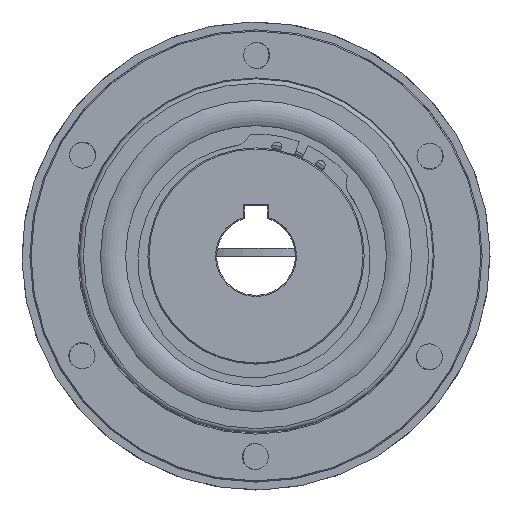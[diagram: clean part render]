
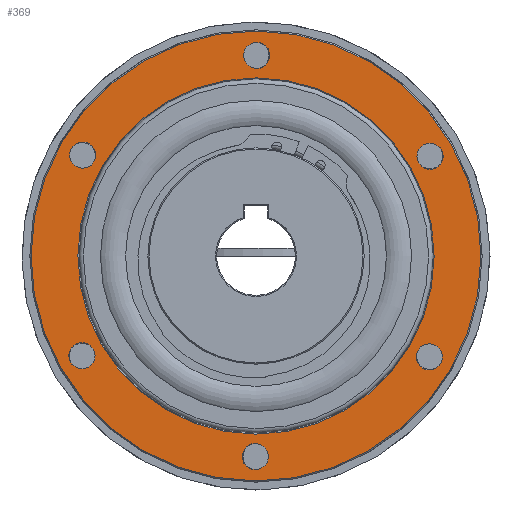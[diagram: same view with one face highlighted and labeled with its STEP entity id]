
A CAD part, left-side view. The second image highlights one B-rep face of the part: STEP entity #369.
In plain terms, the highlighted planar face has unit normal (-1, 0, 0).
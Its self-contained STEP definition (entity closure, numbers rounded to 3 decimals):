
#369 = ADVANCED_FACE( '', ( #640, #641, #642, #643, #644, #645, #646, #647 ), #648, .F. );
#640 = FACE_OUTER_BOUND( '', #940, .T. );
#641 = FACE_BOUND( '', #941, .T. );
#642 = FACE_BOUND( '', #942, .T. );
#643 = FACE_BOUND( '', #943, .T. );
#644 = FACE_BOUND( '', #944, .T. );
#645 = FACE_BOUND( '', #945, .T. );
#646 = FACE_BOUND( '', #946, .T. );
#647 = FACE_BOUND( '', #947, .T. );
#648 = PLANE( '', #948 );
#940 = EDGE_LOOP( '', ( #1430 ) );
#941 = EDGE_LOOP( '', ( #1431 ) );
#942 = EDGE_LOOP( '', ( #1432 ) );
#943 = EDGE_LOOP( '', ( #1433 ) );
#944 = EDGE_LOOP( '', ( #1434 ) );
#945 = EDGE_LOOP( '', ( #1435 ) );
#946 = EDGE_LOOP( '', ( #1436 ) );
#947 = EDGE_LOOP( '', ( #1437 ) );
#948 = AXIS2_PLACEMENT_3D( '', #1438, #1439, #1440 );
#1430 = ORIENTED_EDGE( '', *, *, #1735, .T. );
#1431 = ORIENTED_EDGE( '', *, *, #1738, .T. );
#1432 = ORIENTED_EDGE( '', *, *, #1741, .T. );
#1433 = ORIENTED_EDGE( '', *, *, #1744, .T. );
#1434 = ORIENTED_EDGE( '', *, *, #1745, .T. );
#1435 = ORIENTED_EDGE( '', *, *, #1746, .T. );
#1436 = ORIENTED_EDGE( '', *, *, #1747, .T. );
#1437 = ORIENTED_EDGE( '', *, *, #1748, .T. );
#1438 = CARTESIAN_POINT( '', ( -21.8, 57.5, 0. ) );
#1439 = DIRECTION( '', ( 1., 0., 0. ) );
#1440 = DIRECTION( '', ( 0., 1., 0. ) );
#1735 = EDGE_CURVE( '', #1966, #1966, #1967, .T. );
#1738 = EDGE_CURVE( '', #1972, #1972, #1973, .T. );
#1741 = EDGE_CURVE( '', #1978, #1978, #1979, .T. );
#1744 = EDGE_CURVE( '', #1984, #1984, #1985, .T. );
#1745 = EDGE_CURVE( '', #1986, #1986, #1987, .T. );
#1746 = EDGE_CURVE( '', #1988, #1988, #1989, .T. );
#1747 = EDGE_CURVE( '', #1990, #1990, #1991, .T. );
#1748 = EDGE_CURVE( '', #1992, #1992, #1993, .T. );
#1966 = VERTEX_POINT( '', #2584 );
#1967 = CIRCLE( '', #2585, 57.2 );
#1972 = VERTEX_POINT( '', #2590 );
#1973 = CIRCLE( '', #2591, 45.3 );
#1978 = VERTEX_POINT( '', #2596 );
#1979 = CIRCLE( '', #2597, 3.324 );
#1984 = VERTEX_POINT( '', #2602 );
#1985 = CIRCLE( '', #2603, 3.324 );
#1986 = VERTEX_POINT( '', #2604 );
#1987 = CIRCLE( '', #2605, 3.324 );
#1988 = VERTEX_POINT( '', #2606 );
#1989 = CIRCLE( '', #2607, 3.324 );
#1990 = VERTEX_POINT( '', #2608 );
#1991 = CIRCLE( '', #2609, 3.324 );
#1992 = VERTEX_POINT( '', #2610 );
#1993 = CIRCLE( '', #2611, 3.324 );
#2584 = CARTESIAN_POINT( '', ( -21.8, 0., -57.2 ) );
#2585 = AXIS2_PLACEMENT_3D( '', #2898, #2899, #2900 );
#2590 = CARTESIAN_POINT( '', ( -21.8, 0., -45.3 ) );
#2591 = AXIS2_PLACEMENT_3D( '', #2907, #2908, #2909 );
#2596 = CARTESIAN_POINT( '', ( -21.8, 47.046, 27.162 ) );
#2597 = AXIS2_PLACEMENT_3D( '', #2916, #2917, #2918 );
#2602 = CARTESIAN_POINT( '', ( -21.8, 47.046, -27.162 ) );
#2603 = AXIS2_PLACEMENT_3D( '', #2925, #2926, #2927 );
#2604 = CARTESIAN_POINT( '', ( -21.8, 0., -54.324 ) );
#2605 = AXIS2_PLACEMENT_3D( '', #2928, #2929, #2930 );
#2606 = CARTESIAN_POINT( '', ( -21.8, -47.046, -27.162 ) );
#2607 = AXIS2_PLACEMENT_3D( '', #2931, #2932, #2933 );
#2608 = CARTESIAN_POINT( '', ( -21.8, -47.046, 27.162 ) );
#2609 = AXIS2_PLACEMENT_3D( '', #2934, #2935, #2936 );
#2610 = CARTESIAN_POINT( '', ( -21.8, 0., 54.324 ) );
#2611 = AXIS2_PLACEMENT_3D( '', #2937, #2938, #2939 );
#2898 = CARTESIAN_POINT( '', ( -21.8, 0., 0. ) );
#2899 = DIRECTION( '', ( -1., 0., 0. ) );
#2900 = DIRECTION( '', ( 0., 0., -1. ) );
#2907 = CARTESIAN_POINT( '', ( -21.8, 0., 0. ) );
#2908 = DIRECTION( '', ( 1., 0., 0. ) );
#2909 = DIRECTION( '', ( 0., 0., -1. ) );
#2916 = CARTESIAN_POINT( '', ( -21.8, 44.167, 25.5 ) );
#2917 = DIRECTION( '', ( 1., 0., 0. ) );
#2918 = DIRECTION( '', ( 0., 0.866, 0.5 ) );
#2925 = CARTESIAN_POINT( '', ( -21.8, 44.167, -25.5 ) );
#2926 = DIRECTION( '', ( 1., 0., 0. ) );
#2927 = DIRECTION( '', ( 0., 0.866, -0.5 ) );
#2928 = CARTESIAN_POINT( '', ( -21.8, 0., -51. ) );
#2929 = DIRECTION( '', ( 1., 0., 0. ) );
#2930 = DIRECTION( '', ( 0., 0., -1. ) );
#2931 = CARTESIAN_POINT( '', ( -21.8, -44.167, -25.5 ) );
#2932 = DIRECTION( '', ( 1., 0., 0. ) );
#2933 = DIRECTION( '', ( 0., -0.866, -0.5 ) );
#2934 = CARTESIAN_POINT( '', ( -21.8, -44.167, 25.5 ) );
#2935 = DIRECTION( '', ( 1., 0., 0. ) );
#2936 = DIRECTION( '', ( 0., -0.866, 0.5 ) );
#2937 = CARTESIAN_POINT( '', ( -21.8, 0., 51. ) );
#2938 = DIRECTION( '', ( 1., 0., 0. ) );
#2939 = DIRECTION( '', ( 0., 0., 1. ) );
